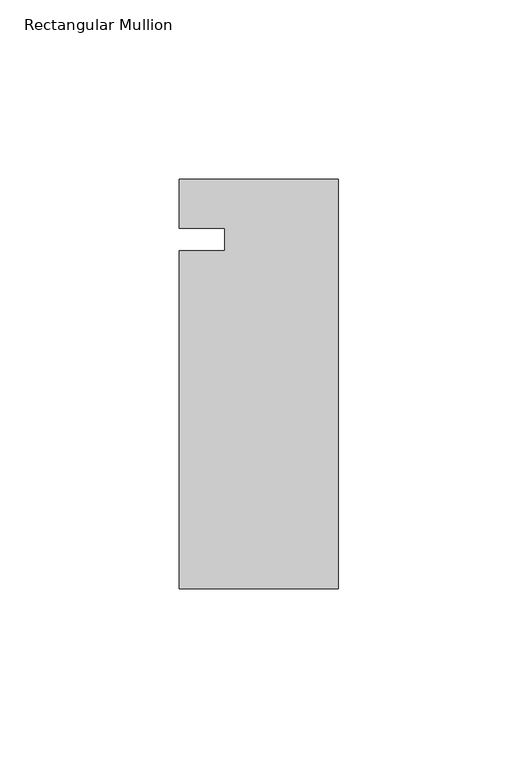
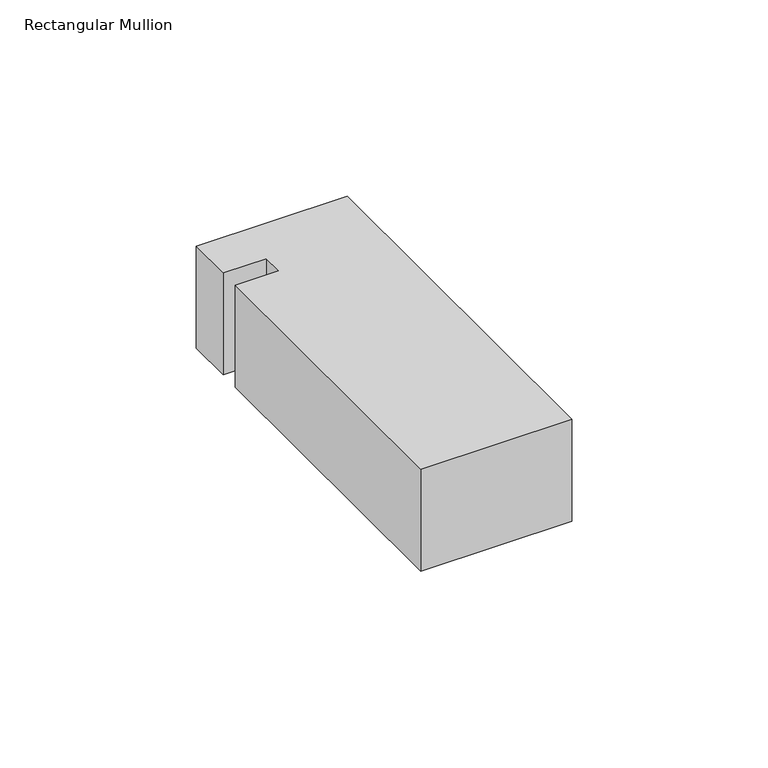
"""IFC4 building model written with IfcOpenShell, lengths in millimetres: member geometry, Rectangular Mullion : Kawneer-TRIFAB_VG_450_BACK_SB_Jamb R."""

from ifc_helpers import new_model, si_unit, frame, origin, place, context, project, spatial, polyline, outline, extrude, source, transform, mapped, element, save


def rectangular_mullion_1a987de4(model_context):
    return source(origin(), model_context, "Body", "SweptSolid", [
        extrude(outline(polyline([(-44.45, 16.8081154), (0.0, 16.8081154), (0.0, -97.4918846), (-44.45, -97.4918846), (-44.45, -3.175), (-31.7482296, -3.175), (-31.7482296, 3.175), (-44.45, 3.175), (-44.45, 16.8081154)])), frame((0.0, 0.0, -31.75), z_axis=(0.0, 0.0, 1.0), x_axis=(1.0, 0.0, 0.0)), (0.0, 0.0, 1.0), 31.75),
    ])


if __name__ == "__main__":
    model = new_model("IFC4")
    model_context = context("Model", 3, world=origin())
    ifc_project = project(units=[si_unit("LENGTHUNIT", "METRE", prefix="MILLI")], contexts=[model_context])
    site = spatial("IfcSite", under=ifc_project)
    building = spatial("IfcBuilding", under=site)
    placement = place(None, origin())
    rectangular_mullion_shape = rectangular_mullion_1a987de4(model_context)
    element("IfcMember", 1, ObjectType="Rectangular Mullion : Kawneer-TRIFAB_VG_450_BACK_SB_Jamb R", at=placement, inside=building, context=model_context, shape_type="MappedRepresentation", body=[
        mapped(rectangular_mullion_shape, transform((0.0, 0.0, 0.0), x_axis=(1.0, 0.0, 0.0), y_axis=(0.0, 1.0, 0.0), z_axis=(0.0, 0.0, 1.0))),
    ])
    save(model, "model.ifc")
